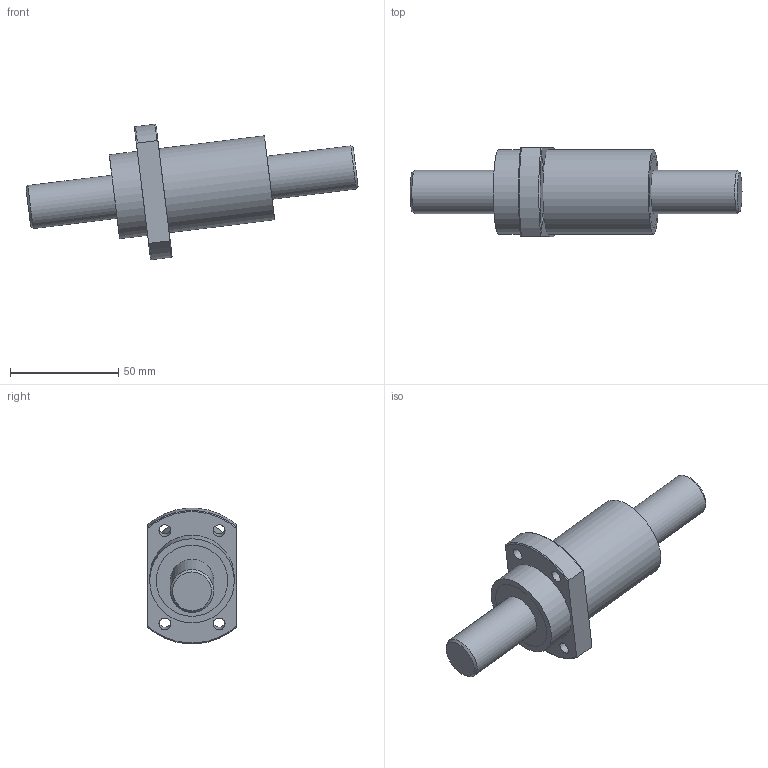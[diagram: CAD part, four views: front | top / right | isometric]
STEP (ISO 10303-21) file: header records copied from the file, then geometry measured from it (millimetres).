
FILE_DESCRIPTION(/* description */ (''),/* implementation_level */ '2;1');
FILE_NAME(/* name */ 'SFY20201.stp',/* time_stamp */ '2014-02-21T10:03:49+08:00',/* author */ (''),/* organization */ (''),/* preprocessor_version */ 'ST-DEVELOPER v11',/* originating_system */ 'SIEMENS UGS NX 6.0',/* authorisation */ '');
FILE_SCHEMA (('CONFIG_CONTROL_DESIGN'));
Length unit declared in the file: millimetre
Products named in the file (1): fann4717bkbl
Bounding box: 153.06 x 41 x 62.44 mm (x, y, z)
Volume: 121598 mm3; surface area: 33873.7 mm2
Topology: 4 solids, 4 shells, 52 faces, 97 edges, 65 vertices
Faces by surface type: cylinder 24, plane 22, torus 4, cone 2
Full cylindrical faces by diameter (mm): 5.5 x4, 20 x4, 30 x4, 33 x4, 34.5 x4, 39 x2
Entity records: 1416 total; most frequent: CARTESIAN_POINT 330, DIRECTION 224, ORIENTED_EDGE 140, AXIS2_PLACEMENT_3D 108, EDGE_LOOP 102, FACE_BOUND 92, EDGE_CURVE 70, VERTEX_POINT 62
